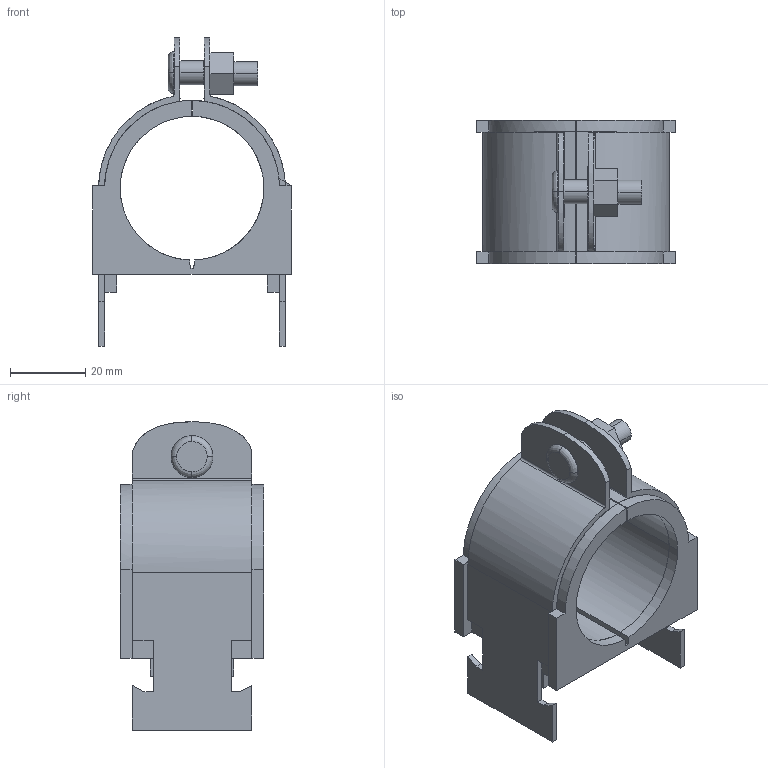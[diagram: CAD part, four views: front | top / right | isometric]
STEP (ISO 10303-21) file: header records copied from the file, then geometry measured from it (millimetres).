
FILE_DESCRIPTION(('TurboCAD Mac Pro'),'Build 980');
FILE_NAME('024N028.stp',' ',(''),(''),'ACIS Interop','IMSI','TurboCAD Mac Pro BY IMSI, INCORPORATED');
FILE_SCHEMA(('automotive_design'));
Length unit declared in the file: inch
Products named in the file (3): 1; 2; 3
Bounding box: 52.7 x 38.1 x 81.79 mm (x, y, z)
Volume: 40460.4 mm3; surface area: 26151.7 mm2
Topology: 3 solids, 3 shells, 142 faces, 380 edges, 248 vertices
Faces by surface type: plane 96, bspline 46
Entity records: 6906 total; most frequent: CARTESIAN_POINT 1703, ORIENTED_EDGE 760, DIRECTION 486, EDGE_CURVE 380, STYLED_ITEM 301, PRESENTATION_STYLE_ASSIGNMENT 301, COLOUR_RGB 301, LINE 280
